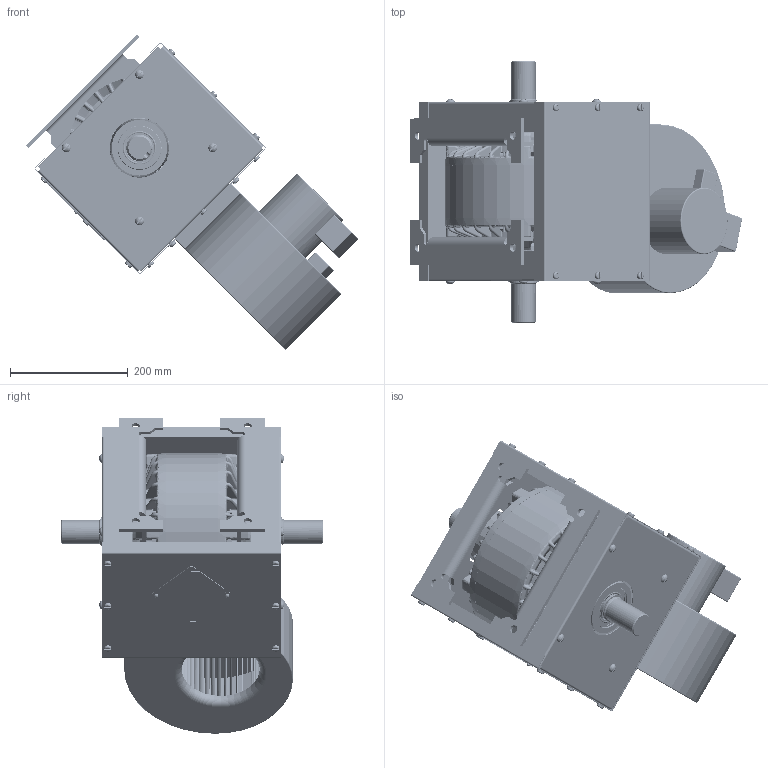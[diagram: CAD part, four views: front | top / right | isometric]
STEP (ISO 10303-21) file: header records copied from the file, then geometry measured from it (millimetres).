
FILE_DESCRIPTION(/* description */ ('STEP AP214'),/* implementation_level */ '2;1');
FILE_NAME(/* name */ '100MCA90B20_stp.step',/* time_stamp */ '2026-05-13T14:01:48-05:00',/* author */ (''),/* organization */ (''),/* preprocessor_version */ 'ST-DEVELOPER v20.1',/* originating_system */ 'Autodesk Translation Framework v15.8.0.0',/* authorisation */ '');
FILE_SCHEMA (('AUTOMOTIVE_DESIGN { 1 0 10303 214 3 1 1 }'));
Products named in the file (1): 100MCA90B20_asm_stp
Bounding box: 564.62 x 444.55 x 536.52 mm (x, y, z)
Volume: 7286242.6 mm3; surface area: 2506981.6 mm2
Topology: 7 solids, 11 shells, 5066 faces, 12801 edges, 7379 vertices
Faces by surface type: bspline 1592, plane 1305, cylinder 1295, torus 579, cone 245, sphere 50
Full cylindrical faces by diameter (mm): 4.039 x2, 4.166 x2, 5.556 x2, 6.35 x26, 7.144 x22, 7.671 x22, 7.849 x2, 7.925 x8, 8.731 x8, 9.525 x6, 12.497 x22, 12.7 x2, 14.275 x4, 14.986 x8, 17.475 x2, 31.75 x1, 41.237 x2, 42.469 x5, 43.663 x2, 45.009 x12, 51 x8, 66.9 x4, 69 x8, 71.425 x1, 75 x2, 75.006 x2, 76.2 x1, 101.6 x3, 113.005 x1, 117.475 x2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
Entity records: 221531 total; most frequent: CARTESIAN_POINT 110613, ORIENTED_EDGE 25156, DIRECTION 21465, EDGE_CURVE 12578, AXIS2_PLACEMENT_3D 8945, VERTEX_POINT 7379, EDGE_LOOP 5327, CIRCLE 5294
